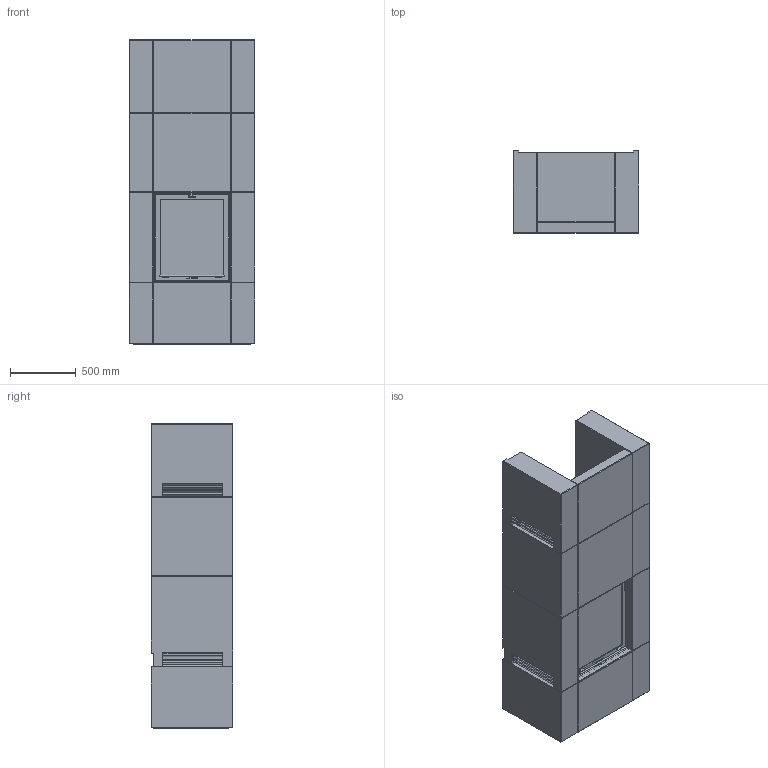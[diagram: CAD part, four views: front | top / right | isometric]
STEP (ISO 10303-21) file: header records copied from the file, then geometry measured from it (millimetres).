
FILE_DESCRIPTION( ( 'Unknown' ), '1' );
FILE_NAME( 'C:/Documents and Settings/hapierrea/Application Data/Unigraphics Solutions/Solid Edge/Insight/insight/Insight/interior models/C21C High Assembly.stp', '2010', ( 'Unknown' ), ( 'NIBE AB' ), 'PSStep 11.0', 'Solid Edge', ' ' );
FILE_SCHEMA( ( 'AUTOMOTIVE_DESIGN { 1 0 10303 214 1 1 1 1 }' ) );
Length unit declared in the file: millimetre
Products named in the file (35): Assem1; Grills extension C21; Grills C21; Front extension C21C; Front set C21C; Insert i20; Firebox insulation i20; Concrete extension C21; Door i20; Door frame i20; Glass i20; Concrete set C21-oa0; Fire i20
Bounding box: 950 x 620 x 2304 mm (x, y, z)
Surface area: 51685507.3 mm2
Topology: 68 solids, 68 shells, 3328 faces, 8586 edges, 5650 vertices
Faces by surface type: plane 2444, extrusion 584, cylinder 276, cone 20, sphere 4
Full cylindrical faces by diameter (mm): 10 x44, 12 x2, 100 x6, 200 x6
Entity records: 71161 total; most frequent: CARTESIAN_POINT 18607, ORIENTED_EDGE 8522, DIRECTION 6686, EDGE_CURVE 4261, VERTEX_POINT 2824, VECTOR 2822, LINE 2530, AXIS2_PLACEMENT_3D 1932
